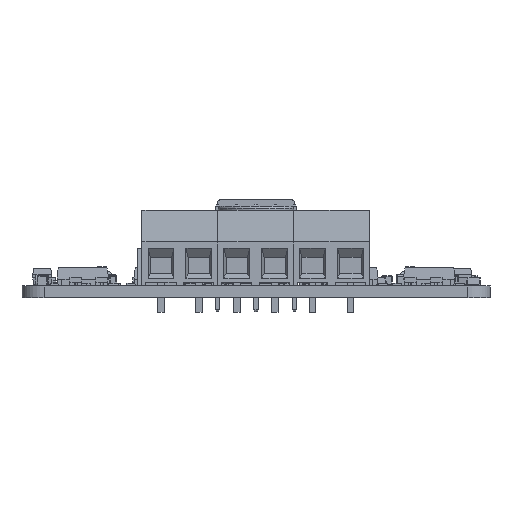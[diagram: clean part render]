
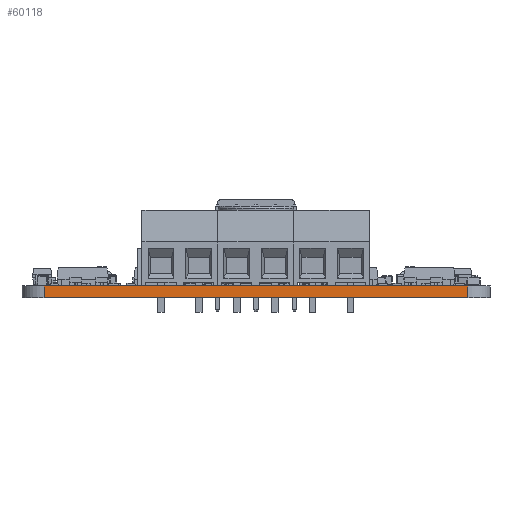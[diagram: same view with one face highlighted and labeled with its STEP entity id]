
A CAD part, left-side view. The second image highlights one B-rep face of the part: STEP entity #60118.
In plain terms, the highlighted planar face has unit normal (-1, 0, 0).
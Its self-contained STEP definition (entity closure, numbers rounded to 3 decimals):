
#1225 = ORIENTED_EDGE ( 'NONE', *, *, #11055, .T. ) ;
#6639 = CARTESIAN_POINT ( 'NONE',  ( 0., 79.121, 1.57 ) ) ;
#7990 = CARTESIAN_POINT ( 'NONE',  ( 0., 23.241, 1.57 ) ) ;
#8312 = VERTEX_POINT ( 'NONE', #17730 ) ;
#10227 = CARTESIAN_POINT ( 'NONE',  ( 0., 79.121, 0. ) ) ;
#10690 = EDGE_LOOP ( 'NONE', ( #70716, #1225, #61005, #66508 ) ) ;
#10822 = VECTOR ( 'NONE', #62389, 1000. ) ;
#11055 = EDGE_CURVE ( 'NONE', #47671, #12369, #75886, .T. ) ;
#12369 = VERTEX_POINT ( 'NONE', #6639 ) ;
#12474 = VERTEX_POINT ( 'NONE', #10227 ) ;
#17730 = CARTESIAN_POINT ( 'NONE',  ( 0., 23.241, 0. ) ) ;
#19354 = LINE ( 'NONE', #58956, #33928 ) ;
#28146 = EDGE_CURVE ( 'NONE', #8312, #12474, #51680, .T. ) ;
#30272 = CARTESIAN_POINT ( 'NONE',  ( 0., 79.121, 0. ) ) ;
#32373 = AXIS2_PLACEMENT_3D ( 'NONE', #49698, #55888, #42890 ) ;
#33928 = VECTOR ( 'NONE', #57878, 1000. ) ;
#36233 = FACE_OUTER_BOUND ( 'NONE', #10690, .T. ) ;
#39192 = VECTOR ( 'NONE', #54385, 1000. ) ;
#39198 = DIRECTION ( 'NONE',  ( 0., 1., 0. ) ) ;
#39259 = EDGE_CURVE ( 'NONE', #47671, #8312, #19354, .T. ) ;
#41289 = EDGE_CURVE ( 'NONE', #12474, #12369, #59576, .T. ) ;
#42890 = DIRECTION ( 'NONE',  ( 0., 0., -1. ) ) ;
#47671 = VERTEX_POINT ( 'NONE', #7990 ) ;
#48088 = PLANE ( 'NONE',  #32373 ) ;
#49698 = CARTESIAN_POINT ( 'NONE',  ( 0., 79.121, 0. ) ) ;
#51680 = LINE ( 'NONE', #68926, #10822 ) ;
#54385 = DIRECTION ( 'NONE',  ( 0., 0., 1. ) ) ;
#55888 = DIRECTION ( 'NONE',  ( 1., 0., 0. ) ) ;
#57083 = CARTESIAN_POINT ( 'NONE',  ( 0., 79.121, 1.57 ) ) ;
#57878 = DIRECTION ( 'NONE',  ( 0., 0., -1. ) ) ;
#58956 = CARTESIAN_POINT ( 'NONE',  ( 0., 23.241, 0. ) ) ;
#59576 = LINE ( 'NONE', #30272, #39192 ) ;
#60118 = ADVANCED_FACE ( 'NONE', ( #36233 ), #48088, .F. ) ;
#61005 = ORIENTED_EDGE ( 'NONE', *, *, #41289, .F. ) ;
#62389 = DIRECTION ( 'NONE',  ( 0., 1., 0. ) ) ;
#66508 = ORIENTED_EDGE ( 'NONE', *, *, #28146, .F. ) ;
#68926 = CARTESIAN_POINT ( 'NONE',  ( 0., 20.32, 0. ) ) ;
#70716 = ORIENTED_EDGE ( 'NONE', *, *, #39259, .F. ) ;
#75886 = LINE ( 'NONE', #57083, #77808 ) ;
#77808 = VECTOR ( 'NONE', #39198, 1000. ) ;
